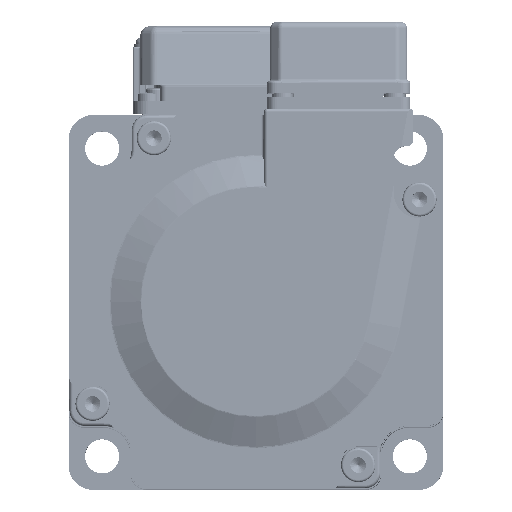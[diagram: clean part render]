
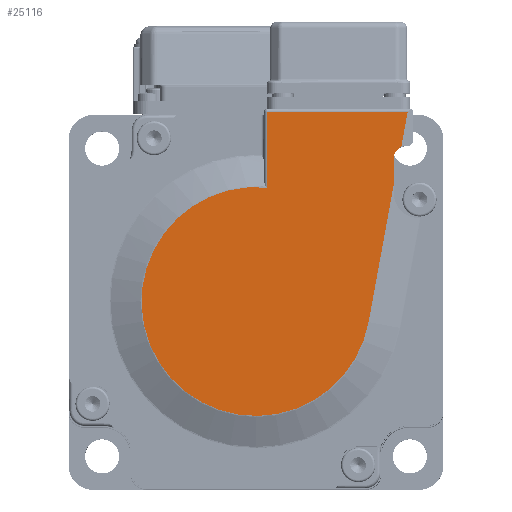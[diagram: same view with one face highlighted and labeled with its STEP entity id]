
A CAD part, top view. The second image highlights one B-rep face of the part: STEP entity #25116.
In plain terms, the highlighted planar face has unit normal (0, 0, 1).
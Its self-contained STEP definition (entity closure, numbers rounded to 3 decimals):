
#10615 = CARTESIAN_POINT ( 'NONE',  ( 22.149, 23., 96.7 ) ) ;
#18455 = DIRECTION ( 'NONE',  ( 1., 0., 0. ) ) ;
#21782 = VECTOR ( 'NONE', #52825, 1000. ) ;
#23729 = EDGE_CURVE ( 'NONE', #117156, #105161, #220179, .T. ) ;
#25116 = ADVANCED_FACE ( 'NONE', ( #121572 ), #200201, .T. ) ;
#26386 = VERTEX_POINT ( 'NONE', #43657 ) ;
#26852 = ORIENTED_EDGE ( 'NONE', *, *, #103589, .T. ) ;
#34317 = CARTESIAN_POINT ( 'NONE',  ( 1.8, 30.5, 96.7 ) ) ;
#36285 = CARTESIAN_POINT ( 'NONE',  ( 1.8, 18.315, 96.7 ) ) ;
#37986 = LINE ( 'NONE', #72626, #60877 ) ;
#43657 = CARTESIAN_POINT ( 'NONE',  ( 24.392, 30.5, 96.7 ) ) ;
#52825 = DIRECTION ( 'NONE',  ( 0., -1., 0. ) ) ;
#54960 = ORIENTED_EDGE ( 'NONE', *, *, #64883, .F. ) ;
#60877 = VECTOR ( 'NONE', #199185, 1000. ) ;
#62080 = ORIENTED_EDGE ( 'NONE', *, *, #23729, .F. ) ;
#64566 = LINE ( 'NONE', #176598, #21782 ) ;
#64883 = EDGE_CURVE ( 'NONE', #105161, #214692, #64566, .T. ) ;
#72626 = CARTESIAN_POINT ( 'NONE',  ( 22.054, 18.267, 96.7 ) ) ;
#79589 = EDGE_LOOP ( 'NONE', ( #115378, #85943, #54960, #62080, #183792, #130546, #26852 ) ) ;
#83223 = DIRECTION ( 'NONE',  ( 0., -1., 0. ) ) ;
#85943 = ORIENTED_EDGE ( 'NONE', *, *, #132759, .T. ) ;
#87142 = EDGE_CURVE ( 'NONE', #26386, #136635, #155634, .T. ) ;
#88440 = EDGE_CURVE ( 'NONE', #147407, #215501, #183480, .T. ) ;
#90391 = DIRECTION ( 'NONE',  ( 0., 0., 1. ) ) ;
#98111 = CARTESIAN_POINT ( 'NONE',  ( 24.149, 23., 96.7 ) ) ;
#99718 = CARTESIAN_POINT ( 'NONE',  ( 18.198, -3.332, 96.7 ) ) ;
#103589 = EDGE_CURVE ( 'NONE', #136635, #147407, #181254, .T. ) ;
#105161 = VERTEX_POINT ( 'NONE', #10615 ) ;
#107323 = VECTOR ( 'NONE', #83223, 1000. ) ;
#115378 = ORIENTED_EDGE ( 'NONE', *, *, #88440, .T. ) ;
#117156 = VERTEX_POINT ( 'NONE', #194806 ) ;
#121572 = FACE_OUTER_BOUND ( 'NONE', #79589, .T. ) ;
#127615 = CARTESIAN_POINT ( 'NONE',  ( 0., 0., 96.7 ) ) ;
#130546 = ORIENTED_EDGE ( 'NONE', *, *, #87142, .T. ) ;
#132759 = EDGE_CURVE ( 'NONE', #215501, #214692, #37986, .T. ) ;
#136635 = VERTEX_POINT ( 'NONE', #34317 ) ;
#141021 = AXIS2_PLACEMENT_3D ( 'NONE', #234434, #90391, #179563 ) ;
#143554 = DIRECTION ( 'NONE',  ( 0., 0., 1. ) ) ;
#147407 = VERTEX_POINT ( 'NONE', #36285 ) ;
#150176 = DIRECTION ( 'NONE',  ( -1., 0., 0. ) ) ;
#153020 = DIRECTION ( 'NONE',  ( 0., 0., 1. ) ) ;
#155634 = LINE ( 'NONE', #204404, #166994 ) ;
#166994 = VECTOR ( 'NONE', #150176, 1000. ) ;
#168160 = AXIS2_PLACEMENT_3D ( 'NONE', #98111, #153020, #190390 ) ;
#168790 = AXIS2_PLACEMENT_3D ( 'NONE', #127615, #143554, #18455 ) ;
#171336 = DIRECTION ( 'NONE',  ( 0.18, 0.984, 0. ) ) ;
#171510 = EDGE_CURVE ( 'NONE', #117156, #26386, #193746, .T. ) ;
#176598 = CARTESIAN_POINT ( 'NONE',  ( 22.149, 0., 96.7 ) ) ;
#179563 = DIRECTION ( 'NONE',  ( 1., 0., 0. ) ) ;
#181254 = LINE ( 'NONE', #202747, #107323 ) ;
#183480 = CIRCLE ( 'NONE', #168790, 18.404 ) ;
#183792 = ORIENTED_EDGE ( 'NONE', *, *, #171510, .T. ) ;
#186402 = CARTESIAN_POINT ( 'NONE',  ( 18.103, -3.314, 96.7 ) ) ;
#190390 = DIRECTION ( 'NONE',  ( 1., 0., 0. ) ) ;
#193746 = LINE ( 'NONE', #99718, #224997 ) ;
#194806 = CARTESIAN_POINT ( 'NONE',  ( 23.354, 24.836, 96.7 ) ) ;
#199185 = DIRECTION ( 'NONE',  ( 0.18, 0.984, 0. ) ) ;
#200201 = PLANE ( 'NONE',  #141021 ) ;
#202747 = CARTESIAN_POINT ( 'NONE',  ( 1.8, 18.454, 96.7 ) ) ;
#204404 = CARTESIAN_POINT ( 'NONE',  ( 1.3, 30.5, 96.7 ) ) ;
#214692 = VERTEX_POINT ( 'NONE', #224187 ) ;
#215501 = VERTEX_POINT ( 'NONE', #186402 ) ;
#220179 = CIRCLE ( 'NONE', #168160, 2. ) ;
#224187 = CARTESIAN_POINT ( 'NONE',  ( 22.149, 18.785, 96.7 ) ) ;
#224997 = VECTOR ( 'NONE', #171336, 1000. ) ;
#234434 = CARTESIAN_POINT ( 'NONE',  ( 0., 0., 96.7 ) ) ;
